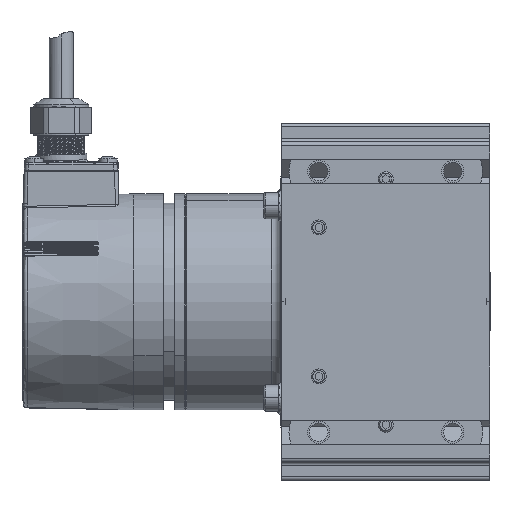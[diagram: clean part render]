
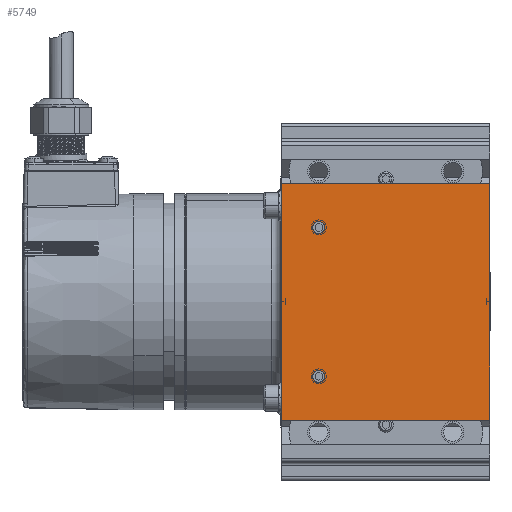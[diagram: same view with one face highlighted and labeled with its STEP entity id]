
A CAD part, front view. The second image highlights one B-rep face of the part: STEP entity #5749.
In plain terms, the highlighted planar face has unit normal (0, -1, 0).
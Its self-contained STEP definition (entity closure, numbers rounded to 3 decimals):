
#648=DIRECTION('',(1.,0.,0.));
#649=VECTOR('',#648,63.5);
#650=CARTESIAN_POINT('',(-31.75,-48.,0.));
#651=LINE('',#650,#649);
#1579=DIRECTION('',(1.,0.,0.));
#1580=VECTOR('',#1579,63.5);
#1581=CARTESIAN_POINT('',(-31.75,-48.,56.));
#1582=LINE('',#1581,#1580);
#2969=DIRECTION('',(0.,0.,1.));
#2970=VECTOR('',#2969,56.);
#2971=CARTESIAN_POINT('',(31.75,-48.,0.));
#2972=LINE('',#2971,#2970);
#2976=DIRECTION('',(0.,0.,1.));
#2977=VECTOR('',#2976,56.);
#2978=CARTESIAN_POINT('',(-31.75,-48.,0.));
#2979=LINE('',#2978,#2977);
#2983=CARTESIAN_POINT('',(20.,-48.,46.));
#2984=DIRECTION('',(0.,1.,0.));
#2985=DIRECTION('',(1.,0.,0.));
#2986=AXIS2_PLACEMENT_3D('',#2983,#2984,#2985);
#2991=CARTESIAN_POINT('',(20.,-48.,46.));
#2992=DIRECTION('',(0.,1.,0.));
#2993=DIRECTION('',(-1.,0.,0.));
#2994=AXIS2_PLACEMENT_3D('',#2991,#2992,#2993);
#2999=CARTESIAN_POINT('',(-20.,-48.,46.));
#3000=DIRECTION('',(0.,1.,0.));
#3001=DIRECTION('',(1.,0.,0.));
#3002=AXIS2_PLACEMENT_3D('',#2999,#3000,#3001);
#3007=CARTESIAN_POINT('',(-20.,-48.,46.));
#3008=DIRECTION('',(0.,1.,0.));
#3009=DIRECTION('',(-1.,0.,0.));
#3010=AXIS2_PLACEMENT_3D('',#3007,#3008,#3009);
#3796=CARTESIAN_POINT('',(21.65,-48.,46.));
#3798=VERTEX_POINT('',#3796);
#3800=CARTESIAN_POINT('',(18.35,-48.,46.));
#3802=VERTEX_POINT('',#3800);
#3804=CARTESIAN_POINT('',(-18.35,-48.,46.));
#3806=VERTEX_POINT('',#3804);
#3808=CARTESIAN_POINT('',(-21.65,-48.,46.));
#3810=VERTEX_POINT('',#3808);
#3893=CARTESIAN_POINT('',(-31.75,-48.,0.));
#3894=VERTEX_POINT('',#3893);
#3895=CARTESIAN_POINT('',(31.75,-48.,0.));
#3896=VERTEX_POINT('',#3895);
#4029=CARTESIAN_POINT('',(-31.75,-48.,56.));
#4030=VERTEX_POINT('',#4029);
#4031=CARTESIAN_POINT('',(31.75,-48.,56.));
#4032=VERTEX_POINT('',#4031);
#5725=CARTESIAN_POINT('',(-31.75,-48.,0.));
#5726=DIRECTION('',(0.,-1.,0.));
#5727=DIRECTION('',(1.,0.,0.));
#5728=AXIS2_PLACEMENT_3D('',#5725,#5726,#5727);
#5729=PLANE('',#5728);
#5730=ORIENTED_EDGE('',*,*,#4255,.F.);
#5732=ORIENTED_EDGE('',*,*,#5731,.T.);
#5733=ORIENTED_EDGE('',*,*,#4582,.T.);
#5734=ORIENTED_EDGE('',*,*,#5718,.F.);
#5735=EDGE_LOOP('',(#5730,#5732,#5733,#5734));
#5736=FACE_OUTER_BOUND('',#5735,.F.);
#5738=ORIENTED_EDGE('',*,*,#5737,.F.);
#5740=ORIENTED_EDGE('',*,*,#5739,.F.);
#5741=EDGE_LOOP('',(#5738,#5740));
#5742=FACE_BOUND('',#5741,.F.);
#5744=ORIENTED_EDGE('',*,*,#5743,.F.);
#5746=ORIENTED_EDGE('',*,*,#5745,.F.);
#5747=EDGE_LOOP('',(#5744,#5746));
#5748=FACE_BOUND('',#5747,.F.);
#2987=CIRCLE('',#2986,1.65);
#2995=CIRCLE('',#2994,1.65);
#3003=CIRCLE('',#3002,1.65);
#3011=CIRCLE('',#3010,1.65);
#4255=EDGE_CURVE('',#3894,#3896,#651,.T.);
#4582=EDGE_CURVE('',#4030,#4032,#1582,.T.);
#5718=EDGE_CURVE('',#3896,#4032,#2972,.T.);
#5731=EDGE_CURVE('',#3894,#4030,#2979,.T.);
#5737=EDGE_CURVE('',#3798,#3802,#2987,.T.);
#5739=EDGE_CURVE('',#3802,#3798,#2995,.T.);
#5743=EDGE_CURVE('',#3806,#3810,#3003,.T.);
#5745=EDGE_CURVE('',#3810,#3806,#3011,.T.);
#5749=ADVANCED_FACE('',(#5736,#5742,#5748),#5729,.T.);
